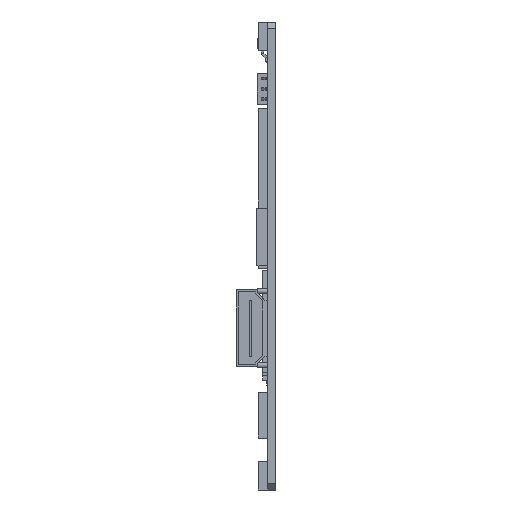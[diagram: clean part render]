
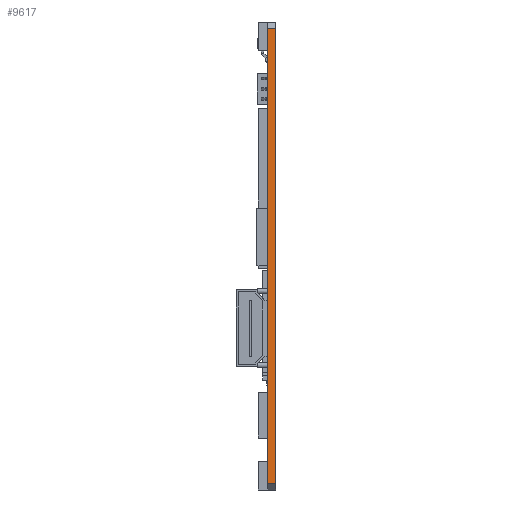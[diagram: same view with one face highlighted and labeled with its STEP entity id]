
A CAD part, left-side view. The second image highlights one B-rep face of the part: STEP entity #9617.
In plain terms, the highlighted planar face has unit normal (-1, 0, 0).
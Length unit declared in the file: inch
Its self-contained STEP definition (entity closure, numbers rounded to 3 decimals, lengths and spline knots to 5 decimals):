
#791 = DIRECTION ( 'NONE',  ( 0., 0., 1. ) ) ;
#815 = VECTOR ( 'NONE', #4397, 39.37008 ) ;
#865 = CARTESIAN_POINT ( 'NONE',  ( -1.8, 0.06299, 1.75 ) ) ;
#898 = CARTESIAN_POINT ( 'NONE',  ( -1.8, 0.06299, 1.8 ) ) ;
#1024 = EDGE_CURVE ( 'NONE', #4046, #6176, #8782, .T. ) ;
#1128 = ORIENTED_EDGE ( 'NONE', *, *, #2156, .T. ) ;
#2002 = EDGE_LOOP ( 'NONE', ( #2708, #9389, #1128, #7667 ) ) ;
#2156 = EDGE_CURVE ( 'NONE', #6506, #4046, #2421, .T. ) ;
#2341 = VECTOR ( 'NONE', #791, 39.37008 ) ;
#2421 = LINE ( 'NONE', #4219, #9052 ) ;
#2628 = FACE_OUTER_BOUND ( 'NONE', #2002, .T. ) ;
#2708 = ORIENTED_EDGE ( 'NONE', *, *, #6421, .F. ) ;
#2711 = CARTESIAN_POINT ( 'NONE',  ( -1.8, 0., 1.75 ) ) ;
#3028 = CARTESIAN_POINT ( 'NONE',  ( -1.8, 0.06299, -1.75 ) ) ;
#4046 = VERTEX_POINT ( 'NONE', #2711 ) ;
#4155 = CARTESIAN_POINT ( 'NONE',  ( -1.8, 0.06299, 1.8 ) ) ;
#4219 = CARTESIAN_POINT ( 'NONE',  ( -1.8, 0., 1.8 ) ) ;
#4343 = VECTOR ( 'NONE', #11295, 39.37008 ) ;
#4397 = DIRECTION ( 'NONE',  ( 0., 1., 0. ) ) ;
#4424 = DIRECTION ( 'NONE',  ( 0., 0., -1. ) ) ;
#5123 = LINE ( 'NONE', #7782, #4343 ) ;
#5127 = DIRECTION ( 'NONE',  ( 1., 0., 0. ) ) ;
#6176 = VERTEX_POINT ( 'NONE', #9174 ) ;
#6292 = CARTESIAN_POINT ( 'NONE',  ( -1.8, 0., -1.75 ) ) ;
#6421 = EDGE_CURVE ( 'NONE', #9974, #6176, #11264, .T. ) ;
#6506 = VERTEX_POINT ( 'NONE', #6292 ) ;
#7667 = ORIENTED_EDGE ( 'NONE', *, *, #1024, .T. ) ;
#7782 = CARTESIAN_POINT ( 'NONE',  ( -1.8, 0.06299, -1.75 ) ) ;
#8593 = AXIS2_PLACEMENT_3D ( 'NONE', #898, #5127, #4424 ) ;
#8751 = PLANE ( 'NONE',  #8593 ) ;
#8782 = LINE ( 'NONE', #865, #815 ) ;
#9052 = VECTOR ( 'NONE', #10390, 39.37008 ) ;
#9174 = CARTESIAN_POINT ( 'NONE',  ( -1.8, 0.06299, 1.75 ) ) ;
#9389 = ORIENTED_EDGE ( 'NONE', *, *, #10822, .T. ) ;
#9617 = ADVANCED_FACE ( 'NONE', ( #2628 ), #8751, .F. ) ;
#9974 = VERTEX_POINT ( 'NONE', #3028 ) ;
#10390 = DIRECTION ( 'NONE',  ( 0., 0., 1. ) ) ;
#10822 = EDGE_CURVE ( 'NONE', #9974, #6506, #5123, .T. ) ;
#11264 = LINE ( 'NONE', #4155, #2341 ) ;
#11295 = DIRECTION ( 'NONE',  ( 0., -1., 0. ) ) ;
